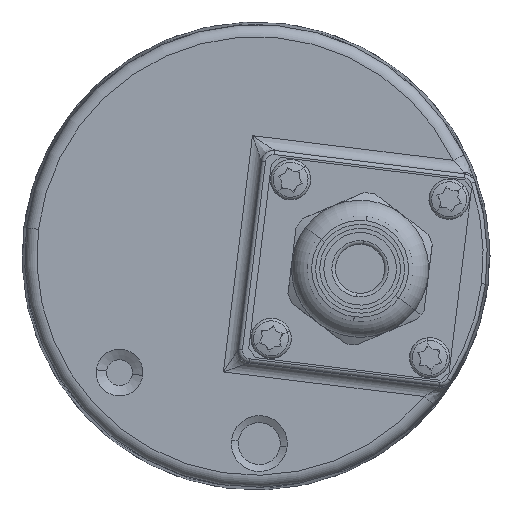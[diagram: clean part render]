
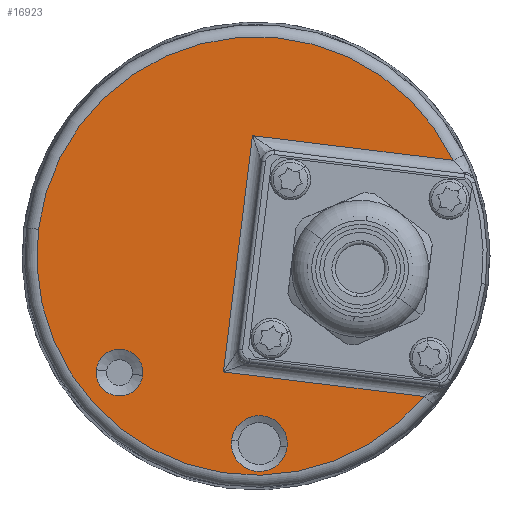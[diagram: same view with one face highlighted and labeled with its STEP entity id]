
A CAD part, left-side view. The second image highlights one B-rep face of the part: STEP entity #16923.
In plain terms, the highlighted planar face has unit normal (-1, 0, 0).
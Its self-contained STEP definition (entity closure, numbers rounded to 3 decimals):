
#854 = CIRCLE ( 'NONE', #7235, 3.466 ) ;
#979 = EDGE_LOOP ( 'NONE', ( #3575, #1155 ) ) ;
#1074 = DIRECTION ( 'NONE',  ( -1., 0., 0. ) ) ;
#1155 = ORIENTED_EDGE ( 'NONE', *, *, #23506, .T. ) ;
#1275 = EDGE_CURVE ( 'NONE', #11406, #9066, #11350, .T. ) ;
#1995 = VERTEX_POINT ( 'NONE', #12136 ) ;
#2998 = CARTESIAN_POINT ( 'NONE',  ( -19., 19.796, -14.097 ) ) ;
#3177 = EDGE_CURVE ( 'NONE', #10825, #14120, #21224, .T. ) ;
#3575 = ORIENTED_EDGE ( 'NONE', *, *, #3177, .T. ) ;
#3595 = PLANE ( 'NONE',  #5638 ) ;
#4132 = CIRCLE ( 'NONE', #5244, 27.173 ) ;
#4179 = EDGE_LOOP ( 'NONE', ( #13406, #15318 ) ) ;
#4205 = DIRECTION ( 'NONE',  ( 1., 0., 0. ) ) ;
#4345 = CARTESIAN_POINT ( 'NONE',  ( -19., -0.406, -23.246 ) ) ;
#5244 = AXIS2_PLACEMENT_3D ( 'NONE', #12598, #1074, #14510 ) ;
#5514 = DIRECTION ( 'NONE',  ( 0., 0.993, 0.122 ) ) ;
#5609 = VECTOR ( 'NONE', #13338, 1000. ) ;
#5638 = AXIS2_PLACEMENT_3D ( 'NONE', #9349, #17027, #5514 ) ;
#6283 = DIRECTION ( 'NONE',  ( 0., 0.993, 0.122 ) ) ;
#6407 = DIRECTION ( 'NONE',  ( 0., -0.122, 0.993 ) ) ;
#6716 = VERTEX_POINT ( 'NONE', #15398 ) ;
#7235 = AXIS2_PLACEMENT_3D ( 'NONE', #4345, #17811, #6283 ) ;
#7862 = VERTEX_POINT ( 'NONE', #9899 ) ;
#8044 = CARTESIAN_POINT ( 'NONE',  ( -19., 26.97, 3.312 ) ) ;
#8071 = DIRECTION ( 'NONE',  ( 1., 0., 0. ) ) ;
#8343 = DIRECTION ( 'NONE',  ( -1., 0., 0. ) ) ;
#8551 = EDGE_CURVE ( 'NONE', #6716, #11406, #21185, .T. ) ;
#8726 = DIRECTION ( 'NONE',  ( 0., 0.993, 0.122 ) ) ;
#9066 = VERTEX_POINT ( 'NONE', #12955 ) ;
#9349 = CARTESIAN_POINT ( 'NONE',  ( -19., 0., 0. ) ) ;
#9899 = CARTESIAN_POINT ( 'NONE',  ( -19., 3.034, -22.824 ) ) ;
#10133 = FACE_BOUND ( 'NONE', #979, .T. ) ;
#10825 = VERTEX_POINT ( 'NONE', #20115 ) ;
#11053 = CARTESIAN_POINT ( 'NONE',  ( -19., 16.919, -14.45 ) ) ;
#11350 = LINE ( 'NONE', #11430, #5609 ) ;
#11406 = VERTEX_POINT ( 'NONE', #11774 ) ;
#11430 = CARTESIAN_POINT ( 'NONE',  ( -19., -27.014, 11.544 ) ) ;
#11774 = CARTESIAN_POINT ( 'NONE',  ( -19., 0.436, 14.914 ) ) ;
#12136 = CARTESIAN_POINT ( 'NONE',  ( -19., -20.853, -17.421 ) ) ;
#12184 = EDGE_LOOP ( 'NONE', ( #24201, #21989, #15411, #18564, #20598 ) ) ;
#12598 = CARTESIAN_POINT ( 'NONE',  ( -19., 0., 0. ) ) ;
#12955 = CARTESIAN_POINT ( 'NONE',  ( -19., -24.448, 11.859 ) ) ;
#12983 = DIRECTION ( 'NONE',  ( 0., 0.993, 0.122 ) ) ;
#12995 = EDGE_CURVE ( 'NONE', #7862, #18307, #21332, .T. ) ;
#13338 = DIRECTION ( 'NONE',  ( 0., -0.993, -0.122 ) ) ;
#13406 = ORIENTED_EDGE ( 'NONE', *, *, #15506, .T. ) ;
#13444 = EDGE_CURVE ( 'NONE', #9066, #21316, #20491, .T. ) ;
#14120 = VERTEX_POINT ( 'NONE', #2998 ) ;
#14510 = DIRECTION ( 'NONE',  ( 0., 0.993, 0.122 ) ) ;
#15199 = FACE_BOUND ( 'NONE', #4179, .T. ) ;
#15318 = ORIENTED_EDGE ( 'NONE', *, *, #12995, .T. ) ;
#15398 = CARTESIAN_POINT ( 'NONE',  ( -19., 4.031, -14.366 ) ) ;
#15411 = ORIENTED_EDGE ( 'NONE', *, *, #22513, .T. ) ;
#15506 = EDGE_CURVE ( 'NONE', #18307, #7862, #854, .T. ) ;
#15720 = CARTESIAN_POINT ( 'NONE',  ( -19., 16.919, -14.45 ) ) ;
#15736 = EDGE_CURVE ( 'NONE', #1995, #6716, #15862, .T. ) ;
#15862 = LINE ( 'NONE', #20262, #16458 ) ;
#16458 = VECTOR ( 'NONE', #8726, 1000. ) ;
#16923 = ADVANCED_FACE ( 'NONE', ( #15199, #10133, #19764 ), #3595, .F. ) ;
#17027 = DIRECTION ( 'NONE',  ( 1., 0., 0. ) ) ;
#17347 = CARTESIAN_POINT ( 'NONE',  ( -19., -3.846, -23.669 ) ) ;
#17660 = DIRECTION ( 'NONE',  ( 0., 0.993, 0.122 ) ) ;
#17811 = DIRECTION ( 'NONE',  ( 1., 0., 0. ) ) ;
#17878 = AXIS2_PLACEMENT_3D ( 'NONE', #11053, #24517, #12983 ) ;
#18307 = VERTEX_POINT ( 'NONE', #17347 ) ;
#18359 = AXIS2_PLACEMENT_3D ( 'NONE', #15720, #4205, #17660 ) ;
#18564 = ORIENTED_EDGE ( 'NONE', *, *, #15736, .T. ) ;
#19617 = CARTESIAN_POINT ( 'NONE',  ( -19., -0.406, -23.246 ) ) ;
#19764 = FACE_OUTER_BOUND ( 'NONE', #12184, .T. ) ;
#19880 = CARTESIAN_POINT ( 'NONE',  ( -19., 0., 0. ) ) ;
#19885 = CARTESIAN_POINT ( 'NONE',  ( -19., 0.618, 13.425 ) ) ;
#20115 = CARTESIAN_POINT ( 'NONE',  ( -19., 14.042, -14.804 ) ) ;
#20262 = CARTESIAN_POINT ( 'NONE',  ( -19., 2.542, -14.549 ) ) ;
#20491 = CIRCLE ( 'NONE', #20600, 27.173 ) ;
#20573 = VECTOR ( 'NONE', #6407, 1000. ) ;
#20598 = ORIENTED_EDGE ( 'NONE', *, *, #8551, .T. ) ;
#20600 = AXIS2_PLACEMENT_3D ( 'NONE', #19880, #8343, #21814 ) ;
#21185 = LINE ( 'NONE', #19885, #20573 ) ;
#21224 = CIRCLE ( 'NONE', #17878, 2.899 ) ;
#21316 = VERTEX_POINT ( 'NONE', #8044 ) ;
#21332 = CIRCLE ( 'NONE', #22854, 3.466 ) ;
#21538 = DIRECTION ( 'NONE',  ( 0., 0.993, 0.122 ) ) ;
#21814 = DIRECTION ( 'NONE',  ( 0., 0.993, 0.122 ) ) ;
#21989 = ORIENTED_EDGE ( 'NONE', *, *, #13444, .T. ) ;
#22213 = CIRCLE ( 'NONE', #18359, 2.899 ) ;
#22513 = EDGE_CURVE ( 'NONE', #21316, #1995, #4132, .T. ) ;
#22854 = AXIS2_PLACEMENT_3D ( 'NONE', #19617, #8071, #21538 ) ;
#23506 = EDGE_CURVE ( 'NONE', #14120, #10825, #22213, .T. ) ;
#24201 = ORIENTED_EDGE ( 'NONE', *, *, #1275, .T. ) ;
#24517 = DIRECTION ( 'NONE',  ( 1., 0., 0. ) ) ;
